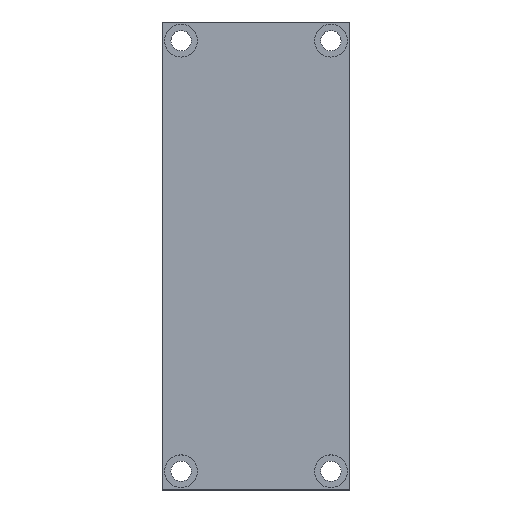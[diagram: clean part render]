
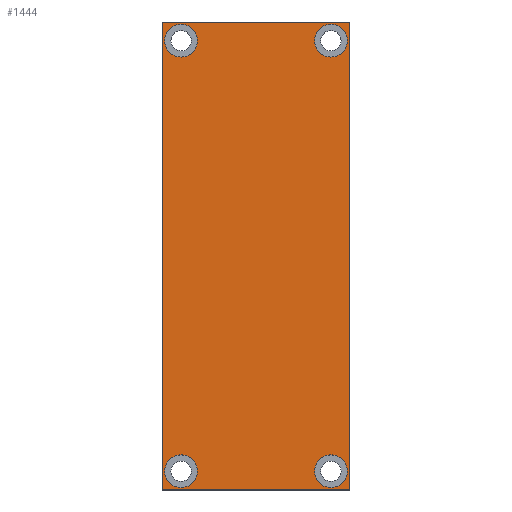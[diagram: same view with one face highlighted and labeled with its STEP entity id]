
A CAD part, top view. The second image highlights one B-rep face of the part: STEP entity #1444.
In plain terms, the highlighted planar face has unit normal (0, 0, 1).
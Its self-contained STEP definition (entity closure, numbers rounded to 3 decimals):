
#216=CARTESIAN_POINT('',(29.25,144.0,5.0));
#217=VERTEX_POINT('',#216);
#233=CARTESIAN_POINT('',(18.75,144.0,5.0));
#234=VERTEX_POINT('',#233);
#241=CARTESIAN_POINT('',(24.,144.0,5.0));
#242=DIRECTION('',(0.0,0.0,-1.0));
#243=DIRECTION('',(1.0,0.0,0.0));
#244=AXIS2_PLACEMENT_3D('',#241,#242,#243);
#245=CIRCLE('',#244,5.25);
#246=EDGE_CURVE('',#217,#234,#245,.T.);
#342=CARTESIAN_POINT('',(29.25,6.,5.0));
#343=VERTEX_POINT('',#342);
#359=CARTESIAN_POINT('',(18.75,6.,5.0));
#360=VERTEX_POINT('',#359);
#367=CARTESIAN_POINT('',(24.,6.,5.0));
#368=DIRECTION('',(0.0,0.0,-1.0));
#369=DIRECTION('',(1.0,0.0,0.0));
#370=AXIS2_PLACEMENT_3D('',#367,#368,#369);
#371=CIRCLE('',#370,5.25);
#372=EDGE_CURVE('',#343,#360,#371,.T.);
#468=CARTESIAN_POINT('',(-18.75,6.,5.0));
#469=VERTEX_POINT('',#468);
#485=CARTESIAN_POINT('',(-29.25,6.,5.0));
#486=VERTEX_POINT('',#485);
#493=CARTESIAN_POINT('',(-24.,6.,5.0));
#494=DIRECTION('',(0.0,0.0,-1.0));
#495=DIRECTION('',(1.0,0.0,0.0));
#496=AXIS2_PLACEMENT_3D('',#493,#494,#495);
#497=CIRCLE('',#496,5.25);
#498=EDGE_CURVE('',#469,#486,#497,.T.);
#594=CARTESIAN_POINT('',(-18.75,144.0,5.0));
#595=VERTEX_POINT('',#594);
#611=CARTESIAN_POINT('',(-29.25,144.0,5.0));
#612=VERTEX_POINT('',#611);
#619=CARTESIAN_POINT('',(-24.,144.0,5.0));
#620=DIRECTION('',(0.0,0.0,-1.0));
#621=DIRECTION('',(1.0,0.0,0.0));
#622=AXIS2_PLACEMENT_3D('',#619,#620,#621);
#623=CIRCLE('',#622,5.25);
#624=EDGE_CURVE('',#595,#612,#623,.T.);
#938=CARTESIAN_POINT('',(-24.,144.0,5.0));
#939=DIRECTION('',(0.0,0.0,-1.0));
#940=DIRECTION('',(1.0,0.0,0.0));
#941=AXIS2_PLACEMENT_3D('',#938,#939,#940);
#942=CIRCLE('',#941,5.25);
#943=EDGE_CURVE('',#612,#595,#942,.T.);
#1042=CARTESIAN_POINT('',(-24.,6.,5.0));
#1043=DIRECTION('',(0.0,0.0,-1.0));
#1044=DIRECTION('',(1.0,0.0,0.0));
#1045=AXIS2_PLACEMENT_3D('',#1042,#1043,#1044);
#1046=CIRCLE('',#1045,5.25);
#1047=EDGE_CURVE('',#486,#469,#1046,.T.);
#1140=CARTESIAN_POINT('',(24.,6.,5.0));
#1141=DIRECTION('',(0.0,0.0,-1.0));
#1142=DIRECTION('',(1.0,0.0,0.0));
#1143=AXIS2_PLACEMENT_3D('',#1140,#1141,#1142);
#1144=CIRCLE('',#1143,5.25);
#1145=EDGE_CURVE('',#360,#343,#1144,.T.);
#1238=CARTESIAN_POINT('',(24.,144.0,5.0));
#1239=DIRECTION('',(0.0,0.0,-1.0));
#1240=DIRECTION('',(1.0,0.0,0.0));
#1241=AXIS2_PLACEMENT_3D('',#1238,#1239,#1240);
#1242=CIRCLE('',#1241,5.25);
#1243=EDGE_CURVE('',#234,#217,#1242,.T.);
#1294=CARTESIAN_POINT('',(-30.0,150.0,5.0));
#1295=VERTEX_POINT('',#1294);
#1312=CARTESIAN_POINT('',(-30.0,0.0,5.0));
#1313=VERTEX_POINT('',#1312);
#1320=CARTESIAN_POINT('',(-30.0,0.0,5.0));
#1321=DIRECTION('',(0.0,1.0,0.0));
#1322=VECTOR('',#1321,150.0);
#1323=LINE('',#1320,#1322);
#1324=EDGE_CURVE('',#1313,#1295,#1323,.T.);
#1381=CARTESIAN_POINT('',(30.0,150.0,5.0));
#1382=VERTEX_POINT('',#1381);
#1389=CARTESIAN_POINT('',(30.0,0.0,5.0));
#1390=VERTEX_POINT('',#1389);
#1391=CARTESIAN_POINT('',(30.0,0.0,5.0));
#1392=DIRECTION('',(0.0,1.0,0.0));
#1393=VECTOR('',#1392,150.0);
#1394=LINE('',#1391,#1393);
#1395=EDGE_CURVE('',#1390,#1382,#1394,.T.);
#1407=CARTESIAN_POINT('',(30.0,0.0,5.0));
#1408=DIRECTION('',(0.0,0.0,1.0));
#1409=DIRECTION('',(1.0,0.0,0.0));
#1410=AXIS2_PLACEMENT_3D('',#1407,#1408,#1409);
#1411=PLANE('',#1410);
#1412=CARTESIAN_POINT('',(30.0,150.0,5.0));
#1413=DIRECTION('',(-1.0,0.0,0.0));
#1414=VECTOR('',#1413,60.0);
#1415=LINE('',#1412,#1414);
#1416=EDGE_CURVE('',#1382,#1295,#1415,.T.);
#1417=ORIENTED_EDGE('',*,*,#1416,.T.);
#1418=ORIENTED_EDGE('',*,*,#1324,.F.);
#1419=CARTESIAN_POINT('',(30.0,0.0,5.0));
#1420=DIRECTION('',(-1.0,0.0,0.0));
#1421=VECTOR('',#1420,60.0);
#1422=LINE('',#1419,#1421);
#1423=EDGE_CURVE('',#1390,#1313,#1422,.T.);
#1424=ORIENTED_EDGE('',*,*,#1423,.F.);
#1425=ORIENTED_EDGE('',*,*,#1395,.T.);
#1426=EDGE_LOOP('',(#1417,#1418,#1424,#1425));
#1427=FACE_OUTER_BOUND('',#1426,.T.);
#1428=ORIENTED_EDGE('',*,*,#624,.T.);
#1429=ORIENTED_EDGE('',*,*,#943,.T.);
#1430=EDGE_LOOP('',(#1428,#1429));
#1431=FACE_BOUND('',#1430,.T.);
#1432=ORIENTED_EDGE('',*,*,#498,.T.);
#1433=ORIENTED_EDGE('',*,*,#1047,.T.);
#1434=EDGE_LOOP('',(#1432,#1433));
#1435=FACE_BOUND('',#1434,.T.);
#1436=ORIENTED_EDGE('',*,*,#372,.T.);
#1437=ORIENTED_EDGE('',*,*,#1145,.T.);
#1438=EDGE_LOOP('',(#1436,#1437));
#1439=FACE_BOUND('',#1438,.T.);
#1440=ORIENTED_EDGE('',*,*,#246,.T.);
#1441=ORIENTED_EDGE('',*,*,#1243,.T.);
#1442=EDGE_LOOP('',(#1440,#1441));
#1443=FACE_BOUND('',#1442,.T.);
#1444=ADVANCED_FACE('',(#1427,#1431,#1435,#1439,#1443),#1411,.T.);
